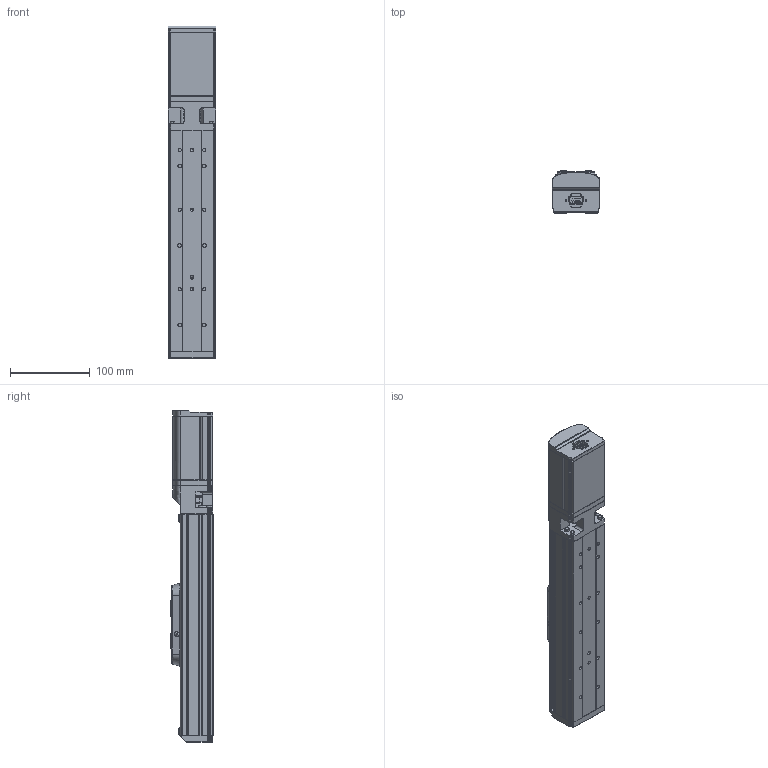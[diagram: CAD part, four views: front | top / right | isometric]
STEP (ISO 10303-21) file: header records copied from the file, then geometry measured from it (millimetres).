
FILE_DESCRIPTION (( 'STEP AP203' ), '1' );
FILE_NAME ('GERC60-150-FD-DX.STEP', '2020-03-30T10:52:47', ( '' ), ( '' ), 'SwSTEP 2.0', 'SolidWorks 2019', '' );
FILE_SCHEMA (( 'CONFIG_CONTROL_DESIGN' ));
Length unit declared in the file: millimetre
Products named in the file (3): Group1^GERC60-150-FD-DX_defeature_GMT; Group2^GERC60-150-FD-DX_defeature_GMT; GERC60-150-FD-DX
Assembly tree (2 placements, depth 2):
  GERC60-150-FD-DX
    Group1^GERC60-150-FD-DX_defeature_GMT
    Group2^GERC60-150-FD-DX_defeature_GMT
Bounding box: 60 x 53 x 417.5 mm (x, y, z)
Volume: 733011.5 mm3; surface area: 198790.1 mm2
Topology: 4 solids, 4 shells, 1606 faces, 4102 edges, 2521 vertices
Faces by surface type: plane 663, cylinder 570, torus 154, cone 100, bspline 99, sphere 20
Entity records: 57161 total; most frequent: CARTESIAN_POINT 18273, ORIENTED_EDGE 8166, DIRECTION 8150, EDGE_CURVE 4083, AXIS2_PLACEMENT_3D 2966, VERTEX_POINT 2515, LINE 2218, VECTOR 2218
